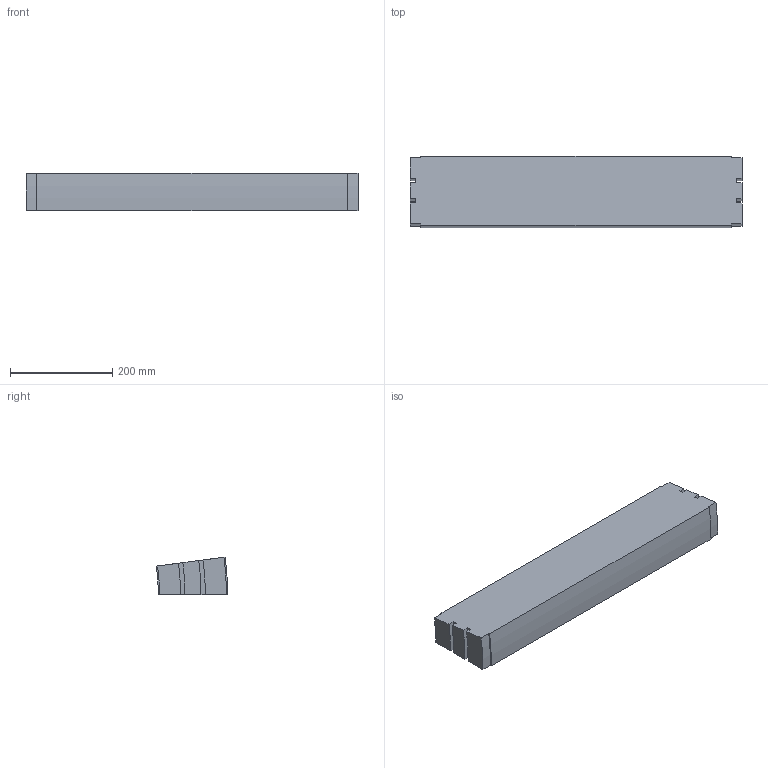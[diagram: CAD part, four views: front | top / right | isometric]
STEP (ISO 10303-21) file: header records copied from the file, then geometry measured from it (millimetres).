
FILE_DESCRIPTION (( 'STEP AP214' ), '1' );
FILE_NAME ('02.150V07.650.N FS-650-MTC-150 Bocht verticaal 7,5°.STEP', '2013-03-29T13:26:01', ( 'Gebruiker' ), ( '' ), 'SwSTEP 2.0', 'SolidWorks 2012', '' );
FILE_SCHEMA (( 'AUTOMOTIVE_DESIGN' ));
Length unit declared in the file: millimetre
Products named in the file (1): 02.150V07.650.N FS-650-MTC-150 Bocht verticaal 7,5°
Bounding box: 650.5 x 139.7 x 74.14 mm (x, y, z)
Volume: 5751994.3 mm3; surface area: 284480.2 mm2
Topology: 1 solids, 1 shells, 30 faces, 84 edges, 56 vertices
Faces by surface type: plane 16, cylinder 14
Entity records: 1010 total; most frequent: DIRECTION 174, CARTESIAN_POINT 171, ORIENTED_EDGE 168, EDGE_CURVE 84, AXIS2_PLACEMENT_3D 59, LINE 56, VECTOR 56, VERTEX_POINT 56
